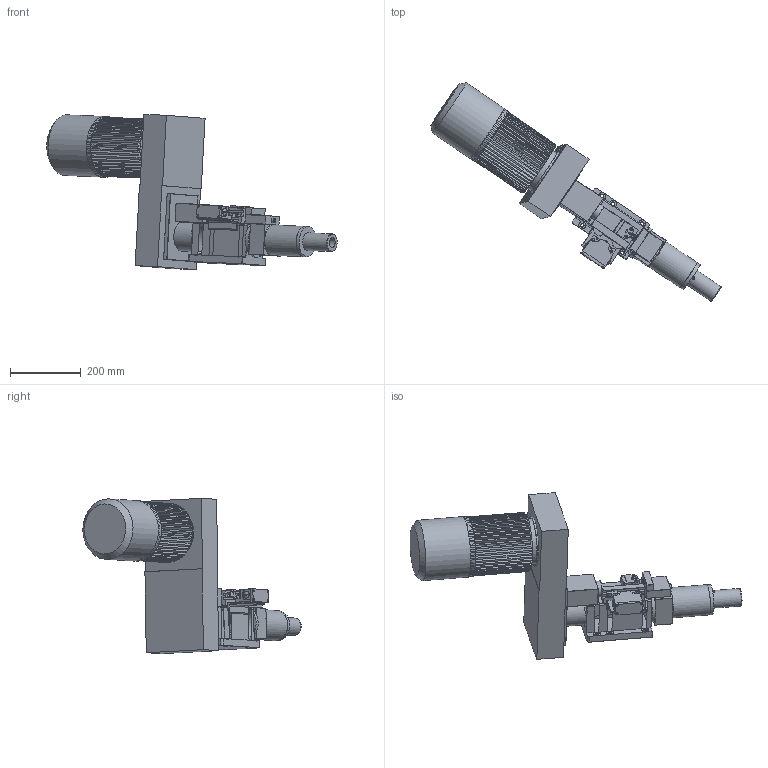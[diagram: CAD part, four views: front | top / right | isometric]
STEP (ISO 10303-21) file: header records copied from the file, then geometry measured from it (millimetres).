
FILE_DESCRIPTION((''),'2;1');
FILE_NAME('C:\VaultWork\Zeichnungen\Maßblätter\Gewindemaschinen\G16-50\G01423-2-0 Maßblatt G16-50 Z-Laterne und Stellhülsenaufnahme Gr. 28.stp','2009-07-22T12:26:37',('Test'),(''),'Autodesk Inventor 2008','Autodesk Inventor 2008','');
FILE_SCHEMA(('AUTOMOTIVE_DESIGN { 1 0 10303 214 1 1 1 1 }'));
Length unit declared in the file: millimetre
Products named in the file (1): G01423-2-0 Maßblatt G16-50 Z-Laterne und Stellhülsenaufnahme Gr. 28
Bounding box: 823.31 x 619.14 x 440.57 mm (x, y, z)
Volume: 18570738.5 mm3; surface area: 993335.3 mm2
Topology: 1 solids, 6 shells, 1067 faces, 2765 edges, 1737 vertices
Faces by surface type: plane 708, cylinder 191, cone 107, bspline 39, torus 18, sphere 4
Full cylindrical faces by diameter (mm): 3.8 x2, 4 x2, 4.3 x2, 4.917 x2, 5.9 x2, 5.97 x1, 6 x3, 6.6 x2, 6.647 x1, 7.323 x1, 8 x6, 9.98 x2, 10 x2, 11.4 x1, 13 x1, 16 x1, 20 x2, 28 x1, 28.6 x1, 45 x1, 50 x1, 86 x2, 130 x1, 140 x1, 172 x1
Entity records: 34346 total; most frequent: CARTESIAN_POINT 8011, ORIENTED_EDGE 5258, DIRECTION 5101, EDGE_CURVE 2629, VECTOR 1791, LINE 1791, VERTEX_POINT 1696, AXIS2_PLACEMENT_3D 1655
